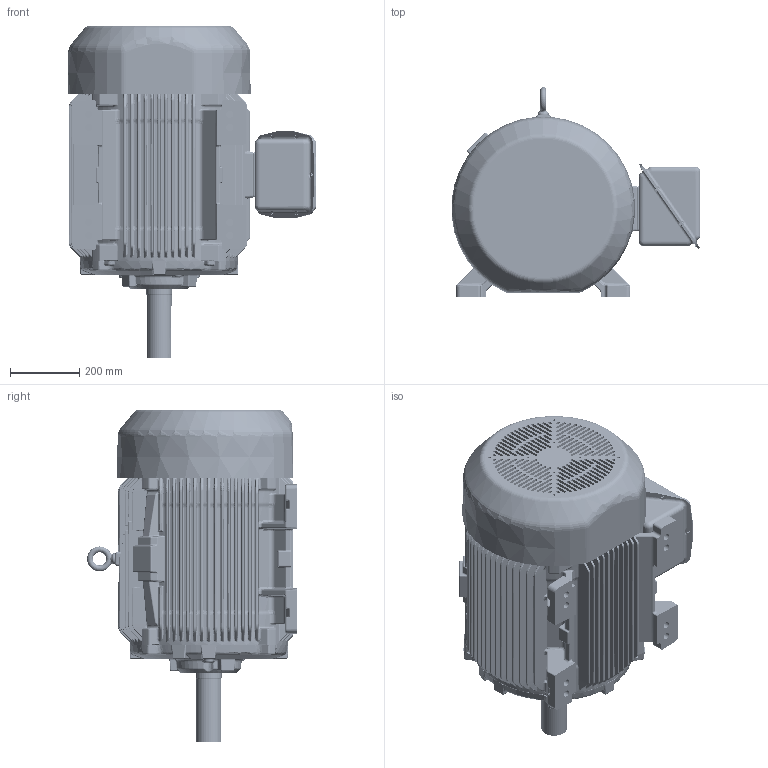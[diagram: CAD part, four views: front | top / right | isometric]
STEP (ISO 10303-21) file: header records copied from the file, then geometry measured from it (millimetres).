
FILE_DESCRIPTION((''),'2;1');
FILE_NAME('400_3D_ASM_ASM','2017-12-14T',('EMD2341'),('Nidec Motor Corporation'),'CREO PARAMETRIC BY PTC INC, 2017170','CREO PARAMETRIC BY PTC INC, 2017170','');
FILE_SCHEMA(('CONFIG_CONTROL_DESIGN'));
Length unit declared in the file: inch
Products named in the file (10): 400_FOOTED_FRAME; 400_DE_BRKT; 400_T; 0013350; 400_STL_FCVR; 400_STL_GSK_OBB; 400_STL_OBB; 400_STL_GSK_OBC; 400_STL_OBC; 400_3D_ASM_ASM
Assembly tree (9 placements, depth 2):
  400_3D_ASM_ASM
    400_FOOTED_FRAME
    400_DE_BRKT
    400_T
    0013350
    400_STL_FCVR
    400_STL_GSK_OBB
    400_STL_OBB
    400_STL_GSK_OBC
    400_STL_OBC
Bounding box: 716.01 x 604.01 x 955.55 mm (x, y, z)
Volume: 147215844.5 mm3; surface area: 4546888.2 mm2
Topology: 9 solids, 9 shells, 5917 faces, 13541 edges, 7756 vertices
Faces by surface type: bspline 2596, cylinder 1332, plane 1169, torus 368, extrusion 312, sphere 84, cone 56
Entity records: 273854 total; most frequent: CARTESIAN_POINT 158508, ORIENTED_EDGE 27066, DIRECTION 19102, EDGE_CURVE 13533, VERTEX_POINT 7756, AXIS2_PLACEMENT_3D 7258, EDGE_LOOP 6095, FACE_OUTER_BOUND 5917
